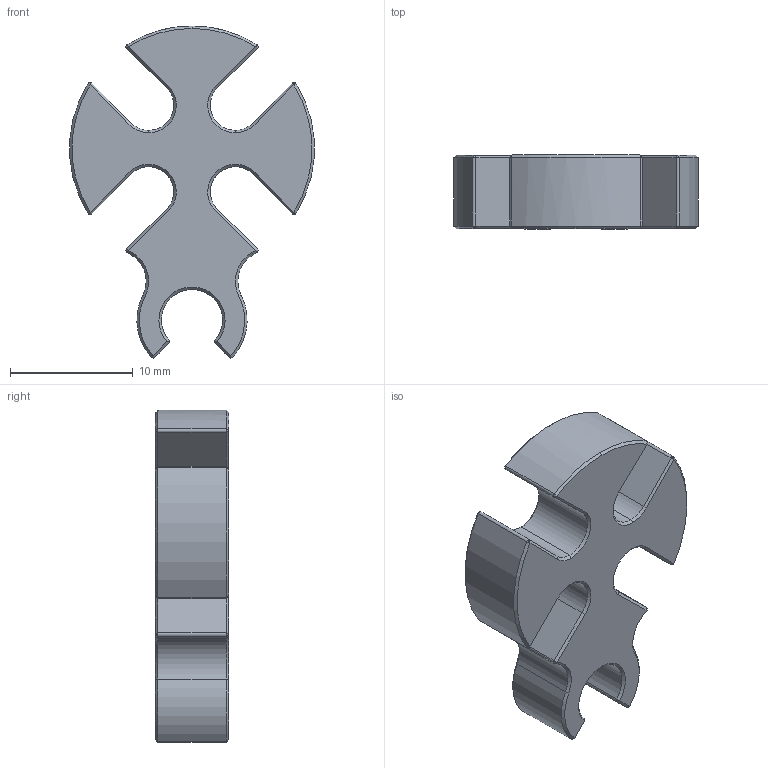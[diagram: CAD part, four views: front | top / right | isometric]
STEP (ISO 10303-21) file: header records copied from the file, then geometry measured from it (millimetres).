
FILE_DESCRIPTION (( 'STEP AP214' ), '1' );
FILE_NAME ('CableClip.STEP', '2026-03-07T10:15:36', ( '' ), ( '' ), 'SwSTEP 2.0', 'SolidWorks 2026', '' );
FILE_SCHEMA (( 'AUTOMOTIVE_DESIGN' ));
Length unit declared in the file: millimetre
Products named in the file (1): CableClip
Bounding box: 19.94 x 6 x 27.1 mm (x, y, z)
Volume: 1458.8 mm3; surface area: 1258.3 mm2
Topology: 1 solids, 1 shells, 128 faces, 300 edges, 144 vertices
Faces by surface type: cone 64, cylinder 32, plane 32
Entity records: 3337 total; most frequent: DIRECTION 632, CARTESIAN_POINT 543, ORIENTED_EDGE 540, EDGE_CURVE 270, AXIS2_PLACEMENT_3D 233, LINE 166, VECTOR 166, VERTEX_POINT 144
